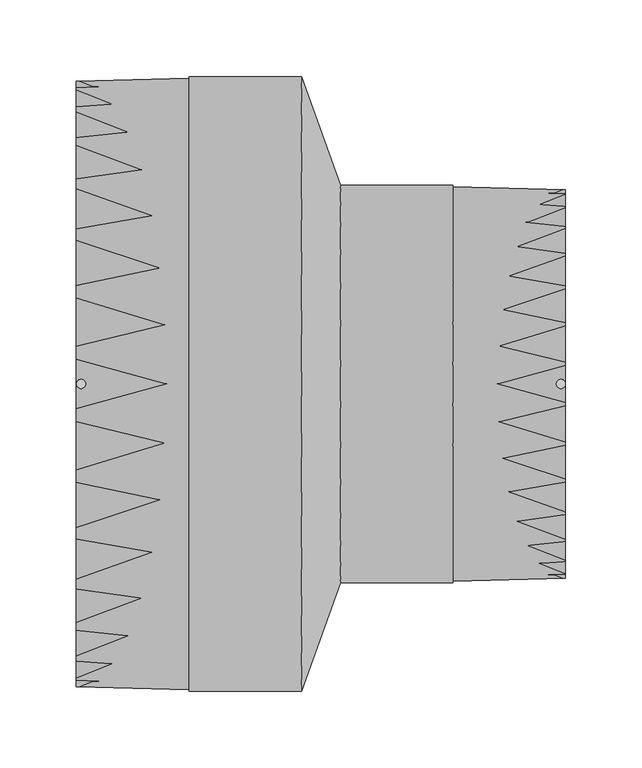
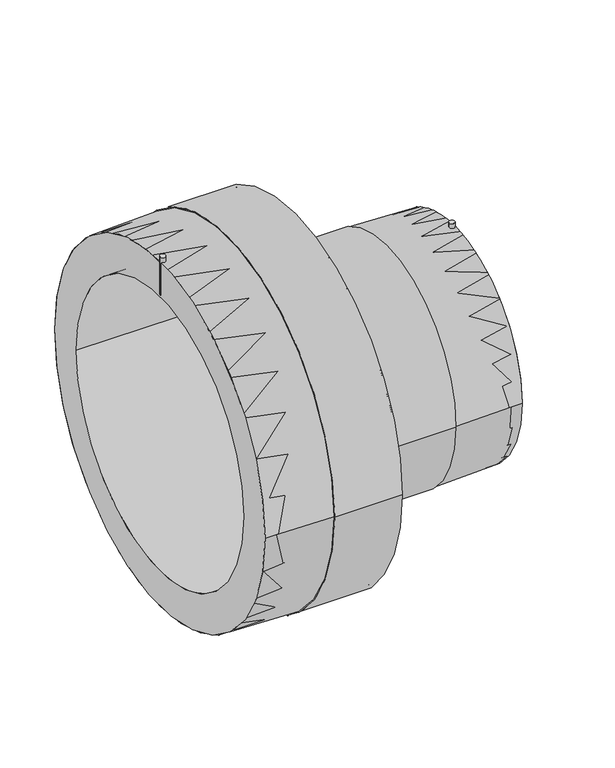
"""IFC4 building model written with IfcOpenShell, lengths in millimetres: pipe fitting geometry, EGB_VASEN_ PPR_Manguito reductor electrosoldable WXRD110 : Manguito reductor electrosoldable WXRD110."""

from ifc_helpers import new_model, si_unit, point, frame, frame_2d, origin, origin_2d, place, context, project, spatial, polyline, circle_curve, trimmed, segment, composite_curve, outline, extrude, source, transform, mapped, element, save
from ifc_brep_helpers import plane_surface, cylinder_surface, revolved_surface, advanced_brep


def pipe_fitting_57e7b1e9(model_context):
    return source(origin(), model_context, "Body", "SolidModel", [
        extrude(outline(composite_curve([segment(trimmed(circle_curve(frame_2d((157.0, 0.0)), 3.0), [point((154.0, 0.0))], [point((160.0, 0.0))], False, "CARTESIAN"), True, "CONTINUOUS"), segment(trimmed(circle_curve(frame_2d((157.0, 0.0)), 3.0), [point((160.0, 0.0))], [point((154.0, 0.0))], False, "CARTESIAN"), True, "CONTINUOUS")], self_intersect=False)), frame((0.0, 0.0, 102.0), z_axis=(0.0, 0.0, 1.0), x_axis=(1.0, 0.0, 0.0)), (0.0, 0.0, 1.0), 30.0),
        extrude(outline(composite_curve([segment(trimmed(circle_curve(frame_2d((-157.0, 0.0)), 3.0), [point((-160.0, 0.0))], [point((-154.0, 0.0))], False, "CARTESIAN"), True, "CONTINUOUS"), segment(trimmed(circle_curve(frame_2d((-157.0, 0.0)), 3.0), [point((-154.0, 0.0))], [point((-160.0, 0.0))], False, "CARTESIAN"), True, "CONTINUOUS")], self_intersect=False)), frame((0.0, 0.0, 159.5), z_axis=(0.0, 0.0, 1.0), x_axis=(1.0, 0.0, 0.0)), (0.0, 0.0, 1.0), 43.5),
        extrude(outline(composite_curve([segment(trimmed(circle_curve(origin_2d(), 127.0), [point((-127.0, 0.0))], [point((127.0, 0.0))], False, "CARTESIAN"), True, "CONTINUOUS"), segment(trimmed(circle_curve(origin_2d(), 127.0), [point((127.0, 0.0))], [point((-127.0, 0.0))], False, "CARTESIAN"), True, "CONTINUOUS")], self_intersect=False), holes=[composite_curve([segment(trimmed(circle_curve(origin_2d(), 100.0), [point((-100.0, 0.0))], [point((100.0, 0.0))], True, "CARTESIAN"), True, "CONTINUOUS"), segment(trimmed(circle_curve(origin_2d(), 100.0), [point((100.0, 0.0))], [point((-100.0, 0.0))], True, "CARTESIAN"), True, "CONTINUOUS")], self_intersect=False)]), frame((12.8, 0.0, 0.0), z_axis=(1.0, 0.0, 0.0), x_axis=(0.0, 1.0, 0.0)), (0.0, 0.0, 1.0), 147.2),
        extrude(outline(composite_curve([segment(trimmed(circle_curve(origin_2d(), 198.0), [point((-198.0, 0.0))], [point((198.0, 0.0))], False, "CARTESIAN"), True, "CONTINUOUS"), segment(trimmed(circle_curve(origin_2d(), 198.0), [point((198.0, 0.0))], [point((-198.0, 0.0))], False, "CARTESIAN"), True, "CONTINUOUS")], self_intersect=False), holes=[composite_curve([segment(trimmed(circle_curve(origin_2d(), 157.5), [point((-157.5, 0.0))], [point((157.5, 0.0))], True, "CARTESIAN"), True, "CONTINUOUS"), segment(trimmed(circle_curve(origin_2d(), 157.5), [point((157.5, 0.0))], [point((-157.5, 0.0))], True, "CARTESIAN"), True, "CONTINUOUS")], self_intersect=False)]), frame((-160.0, 0.0, 0.0), z_axis=(1.0, 0.0, 0.0), x_axis=(0.0, 1.0, 0.0)), (0.0, 0.0, 1.0), 147.2),
        advanced_brep(
        [(12.8, -127.0, 0.0), (12.8, 127.0, 0.0), (-12.8, -198.0, 0.0), (-12.8, 198.0, 0.0)],
        [
            (0, 1, circle_curve(frame((12.8, 0.0, 0.0), z_axis=(1.0, 0.0, 0.0), x_axis=(0.0, -1.0, 0.0)), 127.0)),
            (1, 0, circle_curve(frame((12.8, 0.0, 0.0), z_axis=(1.0, 0.0, 0.0), x_axis=(0.0, 1.0, 0.0)), 127.0)),
            (2, 3, circle_curve(frame((-12.8, 0.0, 0.0), z_axis=(-1.0, 0.0, 0.0), x_axis=(0.0, 1.0, 0.0)), 198.0)),
            (3, 2, circle_curve(frame((-12.8, 0.0, 0.0), z_axis=(-1.0, 0.0, 0.0), x_axis=(0.0, -1.0, 0.0)), 198.0)),
            (3, 1),
            (0, 2),
        ],
        [
            plane_surface(frame((12.8, 0.0, 0.0), z_axis=(1.0, 0.0, 0.0), x_axis=(0.0, 0.0, -1.0))),
            plane_surface(frame((-12.8, 0.0, 0.0), z_axis=(-1.0, 0.0, 0.0), x_axis=(0.0, 0.0, -1.0))),
            revolved_surface(polyline([(12.799999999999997, -127.00000000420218, 0.0), (-12.799999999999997, -198.0, 0.0)]), (58.5915493, 0.0, 0.0), (-1.0, 0.0, 0.0)),
            revolved_surface(polyline([(12.799999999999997, 127.00000000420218, 0.0), (-12.799999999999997, 198.0, 0.0)]), (58.5915493, 0.0, 0.0), (-1.0, 0.0, 0.0)),
        ],
        [
            (0, [[1, 2]]),
            (1, [[3, 4]]),
            (2, [[-4, 5, -1, 6]]),
            (3, [[-3, -6, -2, -5]]),
        ],
    ),
        advanced_brep(
        [(12.8, -127.0, 0.0), (12.8, 127.0, 0.0), (-12.8, 198.0, 0.0), (-12.8, -198.0, 0.0), (160.0, -127.0, 0.0), (160.0, 127.0, 0.0), (86.4, -129.0, 0.0), (86.4, 129.0, 0.0), (86.4, -130.0, 0.0), (86.4, 130.0, 0.0), (12.8, -130.0, 0.0), (12.8, 130.0, 0.0), (-12.8, -201.0, 0.0), (-12.8, 201.0, 0.0), (-86.4, -201.0, 0.0), (-86.4, 201.0, 0.0), (-86.4, -200.0, 0.0), (-86.4, 200.0, 0.0), (-160.0, -198.0, 0.0), (-160.0, 198.0, 0.0)],
        [
            (0, 1, circle_curve(frame((12.8, 0.0, 0.0), z_axis=(1.0, 0.0, 0.0), x_axis=(0.0, 1.0, 0.0)), 127.0)),
            (1, 2),
            (2, 3, circle_curve(frame((-12.8, 0.0, 0.0), z_axis=(-1.0, 0.0, 0.0), x_axis=(0.0, 1.0, 0.0)), 198.0)),
            (3, 0),
            (1, 0, circle_curve(frame((12.8, 0.0, 0.0), z_axis=(1.0, 0.0, 0.0), x_axis=(0.0, 1.0, 0.0)), 127.0)),
            (3, 2, circle_curve(frame((-12.8, 0.0, 0.0), z_axis=(-1.0, 0.0, 0.0), x_axis=(0.0, 1.0, 0.0)), 198.0)),
            (4, 5, circle_curve(frame((160.0, 0.0, 0.0), z_axis=(1.0, 0.0, 0.0), x_axis=(0.0, 1.0, 0.0)), 127.0)),
            (5, 1),
            (0, 4),
            (5, 4, circle_curve(frame((160.0, 0.0, 0.0), z_axis=(1.0, 0.0, 0.0), x_axis=(0.0, 1.0, 0.0)), 127.0)),
            (6, 7, circle_curve(frame((86.4, 0.0, 0.0), z_axis=(1.0, 0.0, 0.0), x_axis=(0.0, 1.0, 0.0)), 129.0)),
            (7, 5),
            (4, 6),
            (7, 6, circle_curve(frame((86.4, 0.0, 0.0), z_axis=(1.0, 0.0, 0.0), x_axis=(0.0, 1.0, 0.0)), 129.0)),
            (8, 9, circle_curve(frame((86.4, 0.0, 0.0), z_axis=(1.0, 0.0, 0.0), x_axis=(0.0, 1.0, 0.0)), 130.0)),
            (9, 7),
            (6, 8),
            (9, 8, circle_curve(frame((86.4, 0.0, 0.0), z_axis=(1.0, 0.0, 0.0), x_axis=(0.0, 1.0, 0.0)), 130.0)),
            (10, 11, circle_curve(frame((12.8, 0.0, 0.0), z_axis=(1.0, 0.0, 0.0), x_axis=(0.0, 1.0, 0.0)), 130.0)),
            (11, 9),
            (8, 10),
            (11, 10, circle_curve(frame((12.8, 0.0, 0.0), z_axis=(1.0, 0.0, 0.0), x_axis=(0.0, 1.0, 0.0)), 130.0)),
            (12, 13, circle_curve(frame((-12.8, 0.0, 0.0), z_axis=(1.0, 0.0, 0.0), x_axis=(0.0, 1.0, 0.0)), 201.0)),
            (13, 11),
            (10, 12),
            (13, 12, circle_curve(frame((-12.8, 0.0, 0.0), z_axis=(1.0, 0.0, 0.0), x_axis=(0.0, 1.0, 0.0)), 201.0)),
            (14, 15, circle_curve(frame((-86.4, 0.0, 0.0), z_axis=(1.0, 0.0, 0.0), x_axis=(0.0, 1.0, 0.0)), 201.0)),
            (15, 13),
            (12, 14),
            (15, 14, circle_curve(frame((-86.4, 0.0, 0.0), z_axis=(1.0, 0.0, 0.0), x_axis=(0.0, 1.0, 0.0)), 201.0)),
            (16, 17, circle_curve(frame((-86.4, 0.0, 0.0), z_axis=(1.0, 0.0, 0.0), x_axis=(0.0, 1.0, 0.0)), 200.0)),
            (17, 15),
            (14, 16),
            (17, 16, circle_curve(frame((-86.4, 0.0, 0.0), z_axis=(1.0, 0.0, 0.0), x_axis=(0.0, 1.0, 0.0)), 200.0)),
            (18, 19, circle_curve(frame((-160.0, 0.0, 0.0), z_axis=(1.0, 0.0, 0.0), x_axis=(0.0, 1.0, 0.0)), 198.0)),
            (19, 17),
            (16, 18),
            (19, 18, circle_curve(frame((-160.0, 0.0, 0.0), z_axis=(1.0, 0.0, 0.0), x_axis=(0.0, 1.0, 0.0)), 198.0)),
            (2, 19),
            (18, 3),
        ],
        [
            revolved_surface(polyline([(-12.8, 198.0, 0.0), (12.8, 127.0, 0.0)]), (-195.0, 0.0, 0.0), (-1.0, 0.0, 0.0)),
            revolved_surface(polyline([(12.800000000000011, 127.0, 0.0), (160.0, 127.0, 0.0)]), (-195.0, 0.0, 0.0), (-1.0, 0.0, 0.0)),
            revolved_surface(polyline([(160.0, 127.0, 0.0), (86.4, 129.0, 0.0)]), (-195.0, 0.0, 0.0), (-1.0, 0.0, 0.0)),
            plane_surface(frame((86.4, 0.0, 0.0), z_axis=(1.0, 0.0, 0.0), x_axis=(0.0, 1.0, 0.0))),
            cylinder_surface(frame((-195.0, 0.0, 0.0), z_axis=(-1.0, 0.0, 0.0), x_axis=(0.0, 1.0, 0.0)), 130.0),
            revolved_surface(polyline([(12.8, 130.0, 0.0), (-12.8, 201.0, 0.0)]), (-195.0, 0.0, 0.0), (-1.0, 0.0, 0.0)),
            cylinder_surface(frame((-195.0, 0.0, 0.0), z_axis=(-1.0, 0.0, 0.0), x_axis=(0.0, 1.0, 0.0)), 201.0),
            plane_surface(frame((-86.4, 0.0, 0.0), z_axis=(-1.0, 0.0, 0.0), x_axis=(0.0, 1.0, 0.0))),
            revolved_surface(polyline([(-86.4, 200.0, 0.0), (-160.0, 198.0, 0.0)]), (-195.0, 0.0, 0.0), (-1.0, 0.0, 0.0)),
            revolved_surface(polyline([(-160.0, 198.0, 0.0), (-12.800000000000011, 198.0, 0.0)]), (-195.0, 0.0, 0.0), (-1.0, 0.0, 0.0)),
        ],
        [
            (0, [[1, 2, 3, 4]]),
            (0, [[5, -4, 6, -2]]),
            (1, [[7, 8, -1, 9]]),
            (1, [[10, -9, -5, -8]]),
            (2, [[11, 12, -7, 13]]),
            (2, [[14, -13, -10, -12]]),
            (3, [[15, 16, -11, 17]]),
            (3, [[18, -17, -14, -16]]),
            (4, [[19, 20, -15, 21]]),
            (4, [[22, -21, -18, -20]]),
            (5, [[23, 24, -19, 25]]),
            (5, [[26, -25, -22, -24]]),
            (6, [[27, 28, -23, 29]]),
            (6, [[30, -29, -26, -28]]),
            (7, [[31, 32, -27, 33]]),
            (7, [[34, -33, -30, -32]]),
            (8, [[35, 36, -31, 37]]),
            (8, [[38, -37, -34, -36]]),
            (9, [[-3, 39, -35, 40]]),
            (9, [[-6, -40, -38, -39]]),
        ],
    ),
    ])


if __name__ == "__main__":
    model = new_model("IFC4")
    model_context = context("Model", 3, world=origin())
    ifc_project = project(units=[si_unit("LENGTHUNIT", "METRE", prefix="MILLI")], contexts=[model_context])
    site = spatial("IfcSite", under=ifc_project)
    building = spatial("IfcBuilding", under=site)
    placement = place(None, origin())
    pipe_fitting_shape = pipe_fitting_57e7b1e9(model_context)
    element("IfcPipeFitting", 1, ObjectType="EGB_VASEN_ PPR_Manguito reductor electrosoldable WXRD110 : Manguito reductor electrosoldable WXRD110", at=placement, inside=building, context=model_context, shape_type="MappedRepresentation", body=[
        mapped(pipe_fitting_shape, transform((0.0, 0.0, 0.0), x_axis=(1.0, 0.0, 0.0), y_axis=(0.0, 1.0, 0.0), z_axis=(0.0, 0.0, 1.0))),
    ])
    save(model, "model.ifc")
